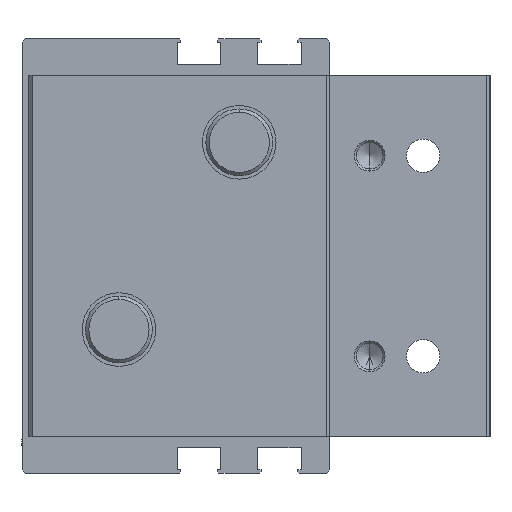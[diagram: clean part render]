
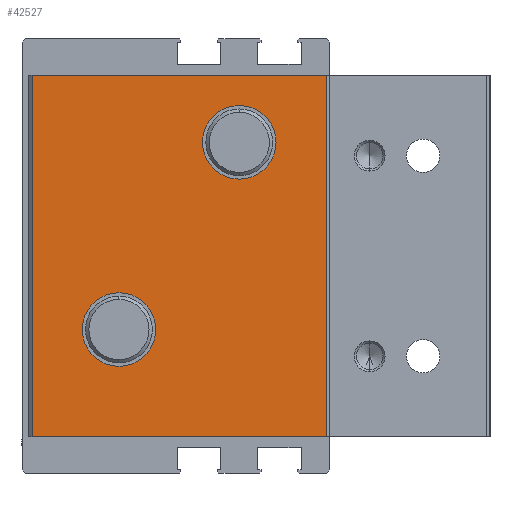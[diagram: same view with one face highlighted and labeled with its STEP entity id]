
A CAD part, left-side view. The second image highlights one B-rep face of the part: STEP entity #42527.
In plain terms, the highlighted planar face has unit normal (-1, 0, 0) as drawn and (1, 0, 0) by its records, which use the part's own axes.
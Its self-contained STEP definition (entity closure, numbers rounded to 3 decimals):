
#217 = VERTEX_POINT ( 'NONE', #10077 ) ;
#392 = DIRECTION ( 'NONE',  ( -1., 0., 0. ) ) ;
#645 = EDGE_CURVE ( 'NONE', #47759, #34355, #2269, .T. ) ;
#788 = EDGE_LOOP ( 'NONE', ( #2922, #30678, #21648, #34125 ) ) ;
#820 = EDGE_LOOP ( 'NONE', ( #3108, #37532 ) ) ;
#2269 = CIRCLE ( 'NONE', #36182, 5.5 ) ;
#2451 = DIRECTION ( 'NONE',  ( -1., 0., 0. ) ) ;
#2484 = LINE ( 'NONE', #4836, #20883 ) ;
#2922 = ORIENTED_EDGE ( 'NONE', *, *, #22480, .F. ) ;
#3108 = ORIENTED_EDGE ( 'NONE', *, *, #7214, .T. ) ;
#3426 = CARTESIAN_POINT ( 'NONE',  ( 17., 61., 11. ) ) ;
#4151 = EDGE_LOOP ( 'NONE', ( #26969, #26217 ) ) ;
#4836 = CARTESIAN_POINT ( 'NONE',  ( 17., 24.5, 27. ) ) ;
#4843 = CIRCLE ( 'NONE', #6065, 5.5 ) ;
#4871 = FACE_BOUND ( 'NONE', #820, .T. ) ;
#5726 = VECTOR ( 'NONE', #10641, 1000. ) ;
#6065 = AXIS2_PLACEMENT_3D ( 'NONE', #14378, #40105, #18044 ) ;
#7214 = EDGE_CURVE ( 'NONE', #18750, #29646, #4843, .T. ) ;
#7839 = AXIS2_PLACEMENT_3D ( 'NONE', #30297, #11960, #37687 ) ;
#8522 = VECTOR ( 'NONE', #28074, 1000. ) ;
#9298 = LINE ( 'NONE', #16057, #27704 ) ;
#9612 = CARTESIAN_POINT ( 'NONE',  ( 17., 43., -17. ) ) ;
#10077 = CARTESIAN_POINT ( 'NONE',  ( 17., 68.5, 27. ) ) ;
#10641 = DIRECTION ( 'NONE',  ( 0., 0., -1. ) ) ;
#10800 = CARTESIAN_POINT ( 'NONE',  ( 17., 68.5, 27. ) ) ;
#11960 = DIRECTION ( 'NONE',  ( -1., 0., 0. ) ) ;
#13547 = FACE_BOUND ( 'NONE', #4151, .T. ) ;
#14378 = CARTESIAN_POINT ( 'NONE',  ( 17., 55.5, 11. ) ) ;
#16057 = CARTESIAN_POINT ( 'NONE',  ( 17., 77., 27. ) ) ;
#16804 = CARTESIAN_POINT ( 'NONE',  ( 17., 77., -27. ) ) ;
#17980 = EDGE_CURVE ( 'NONE', #217, #27717, #9298, .T. ) ;
#18044 = DIRECTION ( 'NONE',  ( 0., 1., 0. ) ) ;
#18475 = CARTESIAN_POINT ( 'NONE',  ( 17., 68.5, -27. ) ) ;
#18750 = VERTEX_POINT ( 'NONE', #3426 ) ;
#19158 = PLANE ( 'NONE',  #7839 ) ;
#20883 = VECTOR ( 'NONE', #41675, 1000. ) ;
#21254 = CARTESIAN_POINT ( 'NONE',  ( 17., 24.5, 27. ) ) ;
#21464 = CARTESIAN_POINT ( 'NONE',  ( 17., 55.5, 11. ) ) ;
#21648 = ORIENTED_EDGE ( 'NONE', *, *, #44766, .F. ) ;
#22422 = CARTESIAN_POINT ( 'NONE',  ( 17., 37.5, -17. ) ) ;
#22480 = EDGE_CURVE ( 'NONE', #217, #38215, #27600, .T. ) ;
#22846 = CARTESIAN_POINT ( 'NONE',  ( 17., 50., 11. ) ) ;
#24493 = CARTESIAN_POINT ( 'NONE',  ( 17., 37.5, -17. ) ) ;
#24974 = CIRCLE ( 'NONE', #40512, 5.5 ) ;
#25173 = DIRECTION ( 'NONE',  ( 0., 1., 0. ) ) ;
#26120 = DIRECTION ( 'NONE',  ( 0., 1., 0. ) ) ;
#26217 = ORIENTED_EDGE ( 'NONE', *, *, #645, .T. ) ;
#26349 = EDGE_CURVE ( 'NONE', #38215, #40458, #39034, .T. ) ;
#26969 = ORIENTED_EDGE ( 'NONE', *, *, #44117, .T. ) ;
#27600 = LINE ( 'NONE', #10800, #5726 ) ;
#27704 = VECTOR ( 'NONE', #31014, 1000. ) ;
#27717 = VERTEX_POINT ( 'NONE', #21254 ) ;
#28074 = DIRECTION ( 'NONE',  ( 0., -1., 0. ) ) ;
#28195 = DIRECTION ( 'NONE',  ( 0., 1., 0. ) ) ;
#29646 = VERTEX_POINT ( 'NONE', #22846 ) ;
#30297 = CARTESIAN_POINT ( 'NONE',  ( 17., 68.5, 27. ) ) ;
#30678 = ORIENTED_EDGE ( 'NONE', *, *, #17980, .T. ) ;
#31014 = DIRECTION ( 'NONE',  ( 0., -1., 0. ) ) ;
#32432 = CARTESIAN_POINT ( 'NONE',  ( 17., 24.5, -27. ) ) ;
#32487 = CARTESIAN_POINT ( 'NONE',  ( 17., 32., -17. ) ) ;
#34125 = ORIENTED_EDGE ( 'NONE', *, *, #26349, .F. ) ;
#34355 = VERTEX_POINT ( 'NONE', #9612 ) ;
#36182 = AXIS2_PLACEMENT_3D ( 'NONE', #24493, #2451, #28195 ) ;
#37330 = CIRCLE ( 'NONE', #47286, 5.5 ) ;
#37532 = ORIENTED_EDGE ( 'NONE', *, *, #37592, .T. ) ;
#37592 = EDGE_CURVE ( 'NONE', #29646, #18750, #37330, .T. ) ;
#37687 = DIRECTION ( 'NONE',  ( 0., -1., 0. ) ) ;
#38215 = VERTEX_POINT ( 'NONE', #18475 ) ;
#39034 = LINE ( 'NONE', #16804, #8522 ) ;
#40105 = DIRECTION ( 'NONE',  ( -1., 0., 0. ) ) ;
#40458 = VERTEX_POINT ( 'NONE', #32432 ) ;
#40512 = AXIS2_PLACEMENT_3D ( 'NONE', #22422, #392, #26120 ) ;
#41675 = DIRECTION ( 'NONE',  ( 0., 0., 1. ) ) ;
#42527 = ADVANCED_FACE ( 'NONE', ( #42868, #4871, #13547 ), #19158, .F. ) ;
#42868 = FACE_OUTER_BOUND ( 'NONE', #788, .T. ) ;
#44117 = EDGE_CURVE ( 'NONE', #34355, #47759, #24974, .T. ) ;
#44766 = EDGE_CURVE ( 'NONE', #40458, #27717, #2484, .T. ) ;
#47271 = DIRECTION ( 'NONE',  ( -1., 0., 0. ) ) ;
#47286 = AXIS2_PLACEMENT_3D ( 'NONE', #21464, #47271, #25173 ) ;
#47759 = VERTEX_POINT ( 'NONE', #32487 ) ;
